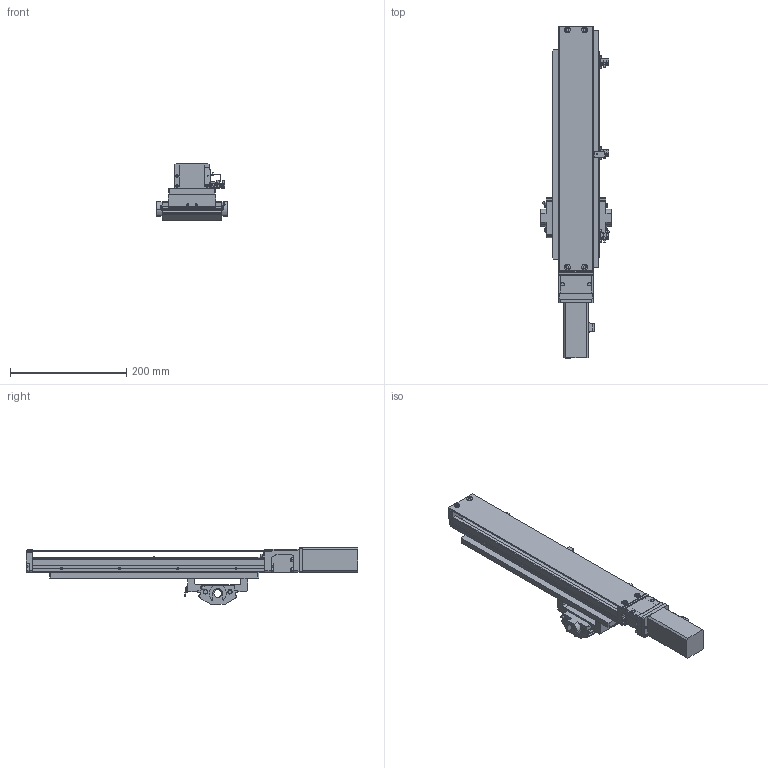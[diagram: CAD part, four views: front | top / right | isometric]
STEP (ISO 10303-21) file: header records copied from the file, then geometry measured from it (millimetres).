
FILE_DESCRIPTION (( 'STEP AP214' ), '1' );
FILE_NAME ('13_X-Y_chip_transfer_mechanism_X.STEP', '2021-02-16T02:49:15', ( '' ), ( '' ), 'SwSTEP 2.0', 'SolidWorks 2017', '' );
FILE_SCHEMA (( 'AUTOMOTIVE_DESIGN' ));
Length unit declared in the file: millimetre
Products named in the file (23): 0792_Z_LXM3010C-T2B-D2-3-3-R-400_13; 0792_310_SCB6-15; 0792_Z_LXM3010C-T2B-D2-3-3-R-400_2; 0792_Z_LXM3010C-T2B-D2-3-3-R-400_1; 0792_Z_LXM3010C-T2B-D2-3-3-R-400_9; 0792_Z_LXM3010C-T2B-D2-3-3-R-400_12; 0792_001_LXM4510C-T3B-D3-3-3-R-590; 0792_Z_LXM3010C-T2B-D2-3-3-R-400_7; _0792_SA01; 0792_Z_LXM3010C-T2B-D2-3-3-R-400_10; 0792_Z_LXM4510C-T3B-D3-3-3-R-590_9; 0792_Z_LXM3010C-T2B-D2-3-3-R-400_4; 0792_Z_LXM3010C-T2B-D2-3-3-R-400_3; 0792_Z_LXM3010C-T2B-D2-3-3-R-400_11; _0792_SA02; 0792_002_LXM3010C-T2B-D2-3-3-R-400; 0792_Z_LXM3010C-T2B-D2-3-3-R-400_6; 0792_203_Plate; new_792_x; 13_X-Y_chip_transfer_mechanism_X; 0792_Z_LXM3010C-T2B-D2-3-3-R-400_5; _0792_Assy; 0792_306_SCB5-12
Assembly tree (28 placements, depth 6):
  13_X-Y_chip_transfer_mechanism_X
    new_792_x
      _0792_Assy
        _0792_SA01
          0792_001_LXM4510C-T3B-D3-3-3-R-590
            0792_Z_LXM4510C-T3B-D3-3-3-R-590_9
        _0792_SA02
          0792_002_LXM3010C-T2B-D2-3-3-R-400
            0792_Z_LXM3010C-T2B-D2-3-3-R-400_1
            0792_Z_LXM3010C-T2B-D2-3-3-R-400_2
            0792_Z_LXM3010C-T2B-D2-3-3-R-400_3  x2
            0792_Z_LXM3010C-T2B-D2-3-3-R-400_4
            0792_Z_LXM3010C-T2B-D2-3-3-R-400_5  x3
            0792_Z_LXM3010C-T2B-D2-3-3-R-400_6  x4
            0792_Z_LXM3010C-T2B-D2-3-3-R-400_7
            0792_Z_LXM3010C-T2B-D2-3-3-R-400_9
            0792_Z_LXM3010C-T2B-D2-3-3-R-400_10
            0792_Z_LXM3010C-T2B-D2-3-3-R-400_11
            0792_Z_LXM3010C-T2B-D2-3-3-R-400_12
            0792_Z_LXM3010C-T2B-D2-3-3-R-400_13
          0792_203_Plate
          0792_306_SCB5-12
          0792_310_SCB6-15
Bounding box: 121.6 x 571.4 x 97.2 mm (x, y, z)
Volume: 1228168.1 mm3; surface area: 349872 mm2
Topology: 22 solids, 24 shells, 2097 faces, 5432 edges, 3493 vertices
Faces by surface type: plane 904, cylinder 660, cone 524, bspline 9
Entity records: 66645 total; most frequent: CARTESIAN_POINT 9572, DIRECTION 8487, ORIENTED_EDGE 7960, EDGE_CURVE 3980, AXIS2_PLACEMENT_3D 3130, VERTEX_POINT 2587, LINE 2227, VECTOR 2227
